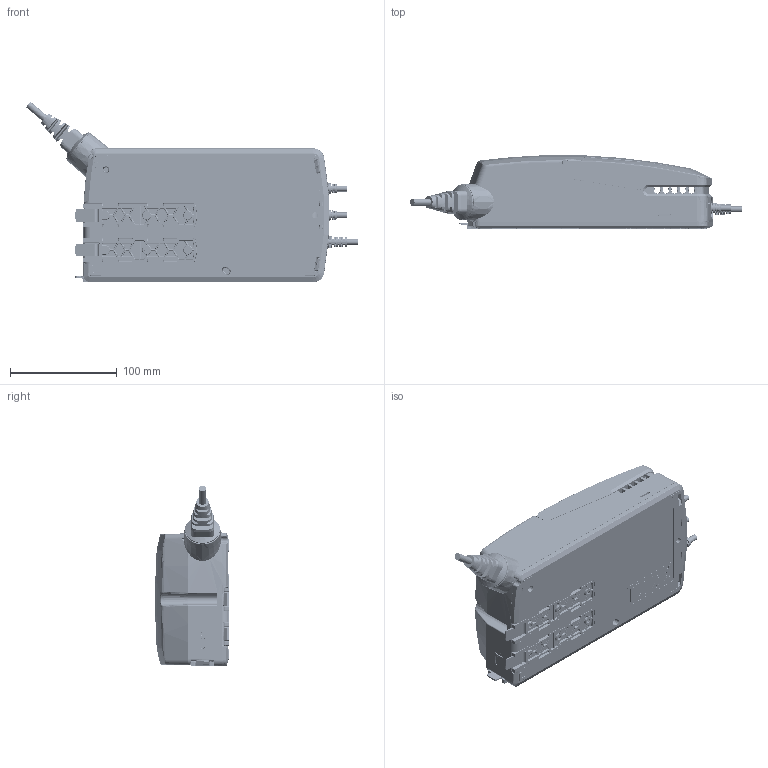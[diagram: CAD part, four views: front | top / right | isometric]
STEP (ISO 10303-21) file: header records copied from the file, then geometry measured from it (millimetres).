
FILE_DESCRIPTION((''),'2;1');
FILE_NAME('1054W4001_ASM','2019-10-18T11:07:27',('ti'),(''),'CREO PARAMETRIC BY PTC INC, 2018400','CREO PARAMETRIC BY PTC INC, 2018400','');
FILE_SCHEMA(('AUTOMOTIVE_DESIGN { 1 0 10303 214 1 1 1 1 }'));
Products named in the file (8): 1054W4001-TP; 1054W4001-LID; SHELL-0273018; SHELL-0273017; SHELL-912019; SHELL-918025; SHELL-1015W1001; 1054W4001_ASM
Assembly tree (14 placements, depth 2):
  1054W4001_ASM
    1054W4001-TP
    1054W4001-LID
    SHELL-0273018  x5
    SHELL-0273017  x2
    SHELL-912019
    SHELL-918025
    SHELL-1015W1001  x3
Bounding box: 310.65 x 68.84 x 168.81 mm (x, y, z)
Volume: 1511886.2 mm3; surface area: 236476.6 mm2
Topology: 15 solids, 20 shells, 9079 faces, 22452 edges, 13599 vertices
Faces by surface type: cylinder 2543, plane 2524, bspline 1508, torus 1248, cone 601, sphere 335, extrusion 310, revolution 10
Entity records: 232332 total; most frequent: CARTESIAN_POINT 100409, ORIENTED_EDGE 26314, DIRECTION 20841, EDGE_CURVE 13157, VERTEX_POINT 8133, AXIS2_PLACEMENT_3D 7536, VECTOR 5767, LINE 5461
